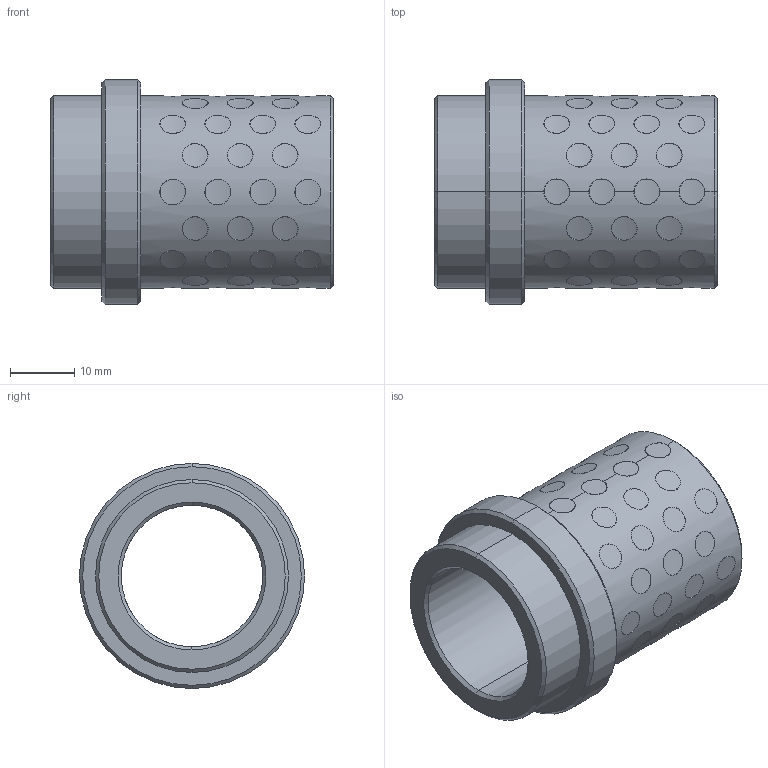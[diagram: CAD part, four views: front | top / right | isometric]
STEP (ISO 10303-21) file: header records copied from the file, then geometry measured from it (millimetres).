
FILE_DESCRIPTION((''),'2;1');
FILE_NAME('G31222036','2017-12-30T',('MANU'),(''),'PRO/ENGINEER BY PARAMETRIC TECHNOLOGY CORPORATION, 2012130','PRO/ENGINEER BY PARAMETRIC TECHNOLOGY CORPORATION, 2012130','');
FILE_SCHEMA(('CONFIG_CONTROL_DESIGN'));
Length unit declared in the file: millimetre
Products named in the file (1): G31222036
Bounding box: 44 x 35 x 35 mm (x, y, z)
Volume: 15769 mm3; surface area: 13878.7 mm2
Topology: 57 solids, 57 shells, 360 faces, 768 edges, 508 vertices
Faces by surface type: cylinder 344, cone 12, plane 4
Entity records: 16584 total; most frequent: CARTESIAN_POINT 9522, ORIENTED_EDGE 1536, DIRECTION 1036, EDGE_CURVE 768, VERTEX_POINT 508, B_SPLINE_CURVE_WITH_KNOTS 480, EDGE_LOOP 460, AXIS2_PLACEMENT_3D 388
